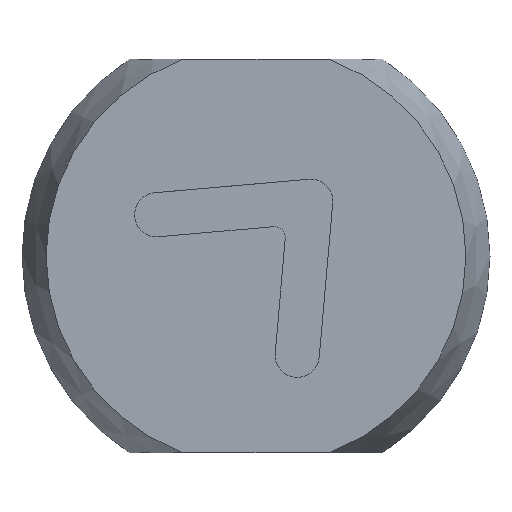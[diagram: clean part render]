
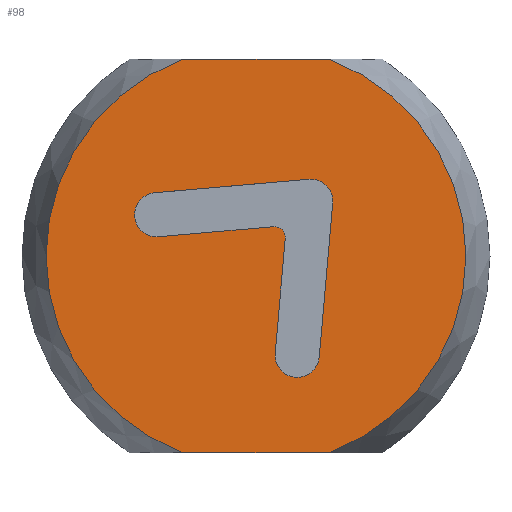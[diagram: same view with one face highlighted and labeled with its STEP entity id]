
A CAD part, top view. The second image highlights one B-rep face of the part: STEP entity #98.
In plain terms, the highlighted planar face has unit normal (0, 0, 1).
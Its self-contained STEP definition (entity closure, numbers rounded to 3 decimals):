
#40=PLANE('',#319);
#51=LINE('',#458,#71);
#52=LINE('',#463,#72);
#53=LINE('',#467,#73);
#54=LINE('',#471,#74);
#55=LINE('',#474,#75);
#56=LINE('',#475,#76);
#71=VECTOR('',#358,1.);
#72=VECTOR('',#361,1.);
#73=VECTOR('',#364,1.);
#74=VECTOR('',#367,1.);
#75=VECTOR('',#370,1.);
#76=VECTOR('',#371,1.);
#91=FACE_BOUND('',#132,.T.);
#92=FACE_BOUND('',#133,.T.);
#98=ADVANCED_FACE('',(#91,#92),#40,.F.);
#132=EDGE_LOOP('',(#165,#166,#167,#168,#169,#170,#171,#172));
#133=EDGE_LOOP('',(#173,#174,#175,#176));
#165=ORIENTED_EDGE('',*,*,#265,.F.);
#166=ORIENTED_EDGE('',*,*,#266,.T.);
#167=ORIENTED_EDGE('',*,*,#267,.F.);
#168=ORIENTED_EDGE('',*,*,#268,.F.);
#169=ORIENTED_EDGE('',*,*,#269,.F.);
#170=ORIENTED_EDGE('',*,*,#270,.F.);
#171=ORIENTED_EDGE('',*,*,#271,.F.);
#172=ORIENTED_EDGE('',*,*,#272,.F.);
#173=ORIENTED_EDGE('',*,*,#273,.F.);
#174=ORIENTED_EDGE('',*,*,#256,.F.);
#175=ORIENTED_EDGE('',*,*,#274,.F.);
#176=ORIENTED_EDGE('',*,*,#258,.F.);
#230=VERTEX_POINT('',#430);
#231=VERTEX_POINT('',#432);
#232=VERTEX_POINT('',#439);
#233=VERTEX_POINT('',#440);
#237=VERTEX_POINT('',#459);
#238=VERTEX_POINT('',#460);
#239=VERTEX_POINT('',#462);
#240=VERTEX_POINT('',#464);
#241=VERTEX_POINT('',#466);
#242=VERTEX_POINT('',#468);
#243=VERTEX_POINT('',#470);
#244=VERTEX_POINT('',#472);
#256=EDGE_CURVE('',#230,#231,#293,.T.);
#258=EDGE_CURVE('',#232,#233,#294,.T.);
#265=EDGE_CURVE('',#237,#238,#51,.T.);
#266=EDGE_CURVE('',#237,#239,#297,.T.);
#267=EDGE_CURVE('',#240,#239,#52,.T.);
#268=EDGE_CURVE('',#241,#240,#298,.T.);
#269=EDGE_CURVE('',#242,#241,#53,.T.);
#270=EDGE_CURVE('',#243,#242,#299,.T.);
#271=EDGE_CURVE('',#244,#243,#54,.T.);
#272=EDGE_CURVE('',#238,#244,#300,.T.);
#273=EDGE_CURVE('',#231,#232,#55,.T.);
#274=EDGE_CURVE('',#233,#230,#56,.T.);
#293=CIRCLE('',#308,9.5);
#294=CIRCLE('',#310,9.5);
#297=CIRCLE('',#315,0.5);
#298=CIRCLE('',#316,1.);
#299=CIRCLE('',#317,1.);
#300=CIRCLE('',#318,1.);
#308=AXIS2_PLACEMENT_3D('',#431,#342,#343);
#310=AXIS2_PLACEMENT_3D('',#438,#346,#347);
#315=AXIS2_PLACEMENT_3D('',#461,#359,#360);
#316=AXIS2_PLACEMENT_3D('',#465,#362,#363);
#317=AXIS2_PLACEMENT_3D('',#469,#365,#366);
#318=AXIS2_PLACEMENT_3D('',#473,#368,#369);
#319=AXIS2_PLACEMENT_3D('',#476,#372,#373);
#342=DIRECTION('',(0.,0.,-1.));
#343=DIRECTION('',(-1.,0.,0.));
#346=DIRECTION('',(0.,0.,-1.));
#347=DIRECTION('',(-1.,0.,0.));
#358=DIRECTION('',(-0.087,-0.996,0.));
#359=DIRECTION('',(0.,0.,1.));
#360=DIRECTION('',(-1.,0.,0.));
#361=DIRECTION('',(0.996,0.087,0.));
#362=DIRECTION('',(0.,0.,1.));
#363=DIRECTION('',(0.707,0.707,0.));
#364=DIRECTION('',(-0.996,-0.087,0.));
#365=DIRECTION('',(0.,0.,1.));
#366=DIRECTION('',(0.707,0.707,0.));
#367=DIRECTION('',(0.087,0.996,0.));
#368=DIRECTION('',(0.,0.,1.));
#369=DIRECTION('',(0.707,0.707,0.));
#370=DIRECTION('',(-1.,0.,0.));
#371=DIRECTION('',(1.,0.,0.));
#372=DIRECTION('',(0.,0.,-1.));
#373=DIRECTION('',(-1.,0.,0.));
#430=CARTESIAN_POINT('',(3.323,8.9,0.));
#431=CARTESIAN_POINT('',(0.,0.,0.));
#432=CARTESIAN_POINT('',(3.323,-8.9,0.));
#438=CARTESIAN_POINT('',(0.,0.,0.));
#439=CARTESIAN_POINT('',(-3.323,-8.9,0.));
#440=CARTESIAN_POINT('',(-3.323,8.9,0.));
#458=CARTESIAN_POINT('',(1.375,1.375,0.));
#459=CARTESIAN_POINT('',(1.323,0.781,0.));
#460=CARTESIAN_POINT('',(0.869,-4.411,0.));
#461=CARTESIAN_POINT('',(0.825,0.825,0.));
#462=CARTESIAN_POINT('',(0.781,1.323,0.));
#463=CARTESIAN_POINT('',(-4.411,0.869,0.));
#464=CARTESIAN_POINT('',(-4.411,0.869,0.));
#465=CARTESIAN_POINT('',(-4.498,1.865,0.));
#466=CARTESIAN_POINT('',(-4.586,2.861,0.));
#467=CARTESIAN_POINT('',(2.388,3.471,0.));
#468=CARTESIAN_POINT('',(2.388,3.471,0.));
#469=CARTESIAN_POINT('',(2.475,2.475,0.));
#470=CARTESIAN_POINT('',(3.471,2.388,0.));
#471=CARTESIAN_POINT('',(2.861,-4.586,0.));
#472=CARTESIAN_POINT('',(2.861,-4.586,0.));
#473=CARTESIAN_POINT('',(1.865,-4.498,0.));
#474=CARTESIAN_POINT('',(10.592,-8.9,0.));
#475=CARTESIAN_POINT('',(-10.592,8.9,0.));
#476=CARTESIAN_POINT('',(0.,0.,0.));
